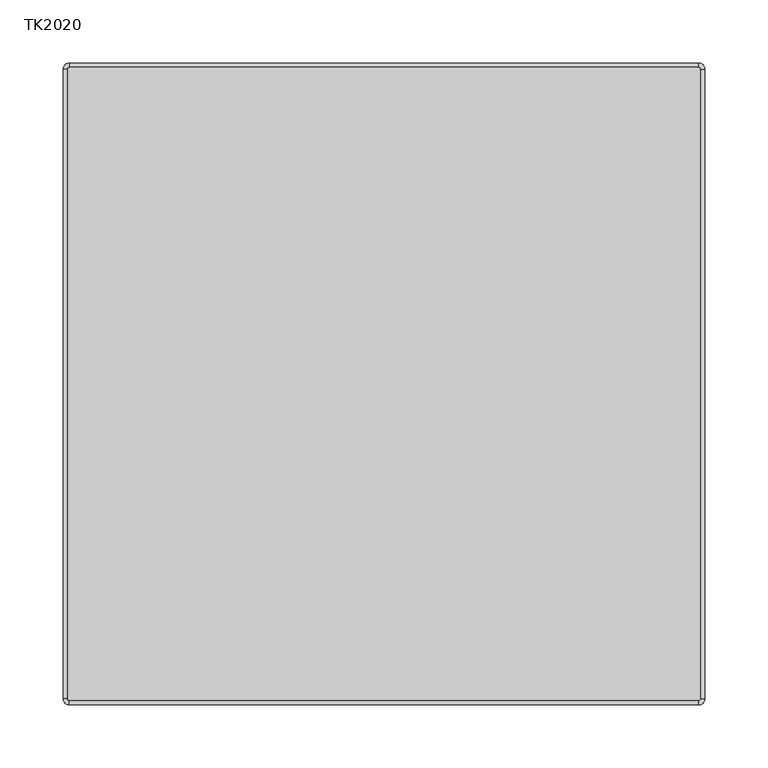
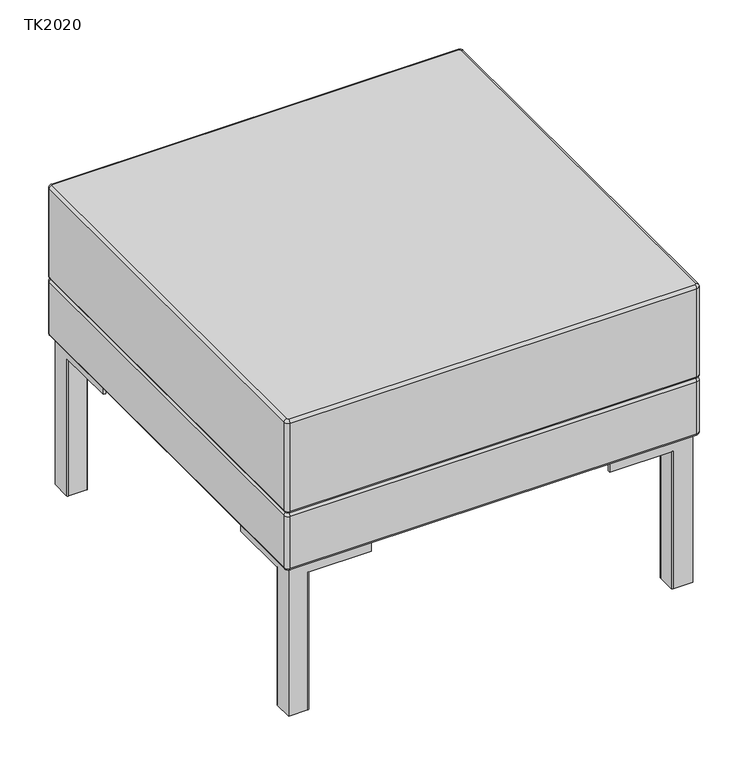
"""IFC4 building model written with IfcOpenShell, lengths in millimetres: furniture geometry, JSI-Teekan-Square_Ottoman : TK2020."""

from ifc_helpers import new_model, si_unit, point, frame, origin, place, context, project, spatial, circle_curve, ellipse_curve, trimmed, source, transform, mapped, element, save
from ifc_brep_helpers import plane_surface, cylinder_surface, revolved_surface, advanced_brep


def tk2020_f4fe18ef(model_context):
    return source(origin(), model_context, "Body", "AdvancedBrep", [
        advanced_brep(
        [(204.7875, -146.05, 192.6567329), (146.05, -204.7875, 192.6567329), (146.05, -246.0963055, 192.6567329), (246.0963055, -246.0963055, 192.6567329), (246.0963055, -146.05, 192.6567329), (146.05, -204.7875, 189.4817329), (204.7875, -146.05, 189.4817329), (244.475, -146.05, 189.4817329), (244.475, -222.25, 189.4817329), (223.8445539, -222.25, 189.4817329), (222.25, -223.8445539, 189.4817329), (222.25, -244.475, 189.4817329), (146.05, -244.475, 189.4817329), (247.65, -146.05, 191.1030384), (247.65, -146.05, 178.3692329), (244.475, -146.05, 178.3692329), (146.05, -244.475, 178.3692329), (146.05, -247.65, 178.3692329), (146.05, -247.65, 191.1030384), (246.0715276, -222.25, 0.0), (247.65, -223.8284724, 0.0), (247.65, -247.65, 0.0), (223.8303762, -247.65, 0.0), (222.25, -246.0696238, 0.0), (222.25, -223.8445539, 0.0), (223.8445539, -222.25, 0.0), (244.475, -222.25, 178.3692329), (246.0715276, -222.25, 178.3692329), (222.25, -246.0696238, 178.3692329), (222.25, -244.475, 178.3692329), (223.8303762, -247.65, 178.3692329), (247.65, -247.65, 191.1030384), (247.65, -223.8284724, 178.3692329)],
        [
            (0, 1),
            (1, 2),
            (2, 3),
            (3, 4),
            (4, 0),
            (5, 6),
            (6, 7),
            (7, 8),
            (8, 9),
            (9, 10, circle_curve(frame((223.8445539, -223.8445539, 189.4817329), z_axis=(0.0, 0.0, 1.0), x_axis=(-1.0, 0.0, 0.0)), 1.5945539)),
            (10, 11),
            (11, 12),
            (12, 5),
            (4, 13, circle_curve(frame((246.0963055, -146.05, 191.1030384), z_axis=(0.0, 1.0, 0.0), x_axis=(-1.0, 0.0, 0.0)), 1.5536945)),
            (13, 14),
            (14, 15),
            (15, 7),
            (6, 0),
            (5, 1),
            (12, 16),
            (16, 17),
            (17, 18),
            (18, 2, circle_curve(frame((146.05, -246.0963055, 191.1030384), z_axis=(-1.0, 0.0, 0.0), x_axis=(0.0, 1.0, 0.0)), 1.5536945)),
            (19, 20, circle_curve(frame((246.0715276, -223.8284724, 0.0), z_axis=(0.0, 0.0, -1.0), x_axis=(-1.0, 0.0, 0.0)), 1.5784724)),
            (20, 21),
            (21, 22),
            (22, 23, circle_curve(frame((223.8303762, -246.0696238, 0.0), z_axis=(0.0, 0.0, -1.0), x_axis=(-1.0, 0.0, 0.0)), 1.5803762)),
            (23, 24),
            (24, 25, circle_curve(frame((223.8445539, -223.8445539, 0.0), z_axis=(0.0, 0.0, -1.0), x_axis=(-1.0, 0.0, 0.0)), 1.5945539)),
            (25, 19),
            (25, 9),
            (8, 26),
            (26, 27),
            (27, 19),
            (24, 10),
            (23, 28),
            (28, 29),
            (29, 11),
            (22, 30),
            (30, 28, circle_curve(frame((223.8303762, -246.0696238, 178.3692329), z_axis=(0.0, 0.0, -1.0), x_axis=(-1.0, 0.0, 0.0)), 1.5803762)),
            (21, 31),
            (31, 18),
            (17, 30),
            (20, 32),
            (32, 14),
            (13, 31),
            (27, 32, circle_curve(frame((246.0715276, -223.8284724, 178.3692329), z_axis=(0.0, 0.0, -1.0), x_axis=(-1.0, 0.0, 0.0)), 1.5784724)),
            (29, 16),
            (26, 15),
            (31, 3, ellipse_curve(frame((246.0963055, -246.0963055, 191.1030384), z_axis=(-0.7071067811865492, -0.7071067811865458, 0.0), x_axis=(-0.7071067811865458, 0.7071067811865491, 0.0)), 2.1972559, 1.5536945)),
        ],
        [
            plane_surface(frame((231.8204481, -231.8204481, 192.6567329), z_axis=(0.0, 0.0, 1.0), x_axis=(1.0, 0.0, 0.0))),
            plane_surface(frame((231.8204481, -231.8204481, 189.4817329), z_axis=(0.0, 0.0, -1.0), x_axis=(-1.0, 0.0, 0.0))),
            plane_surface(frame((231.8204481, -146.05, 192.6567329), z_axis=(0.0, 1.0, 0.0), x_axis=(0.0, 0.0, -1.0))),
            plane_surface(frame((204.7875, -146.05, 192.6567329), z_axis=(-0.7071067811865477, 0.7071067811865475, 0.0), x_axis=(0.0, 0.0, -1.0))),
            plane_surface(frame((146.05, -204.7875, 192.6567329), z_axis=(-1.0, 0.0, 0.0), x_axis=(0.0, 0.0, -1.0))),
            plane_surface(frame((223.8375, -222.25, 0.0), z_axis=(0.0, 0.0, -1.0), x_axis=(1.0, 0.0, 0.0))),
            plane_surface(frame((246.0715276, -222.25, 189.4817329), z_axis=(0.0, 1.0, 0.0), x_axis=(0.0, 0.0, -1.0))),
            cylinder_surface(frame((223.8445539, -223.8445539, 0.0), z_axis=(0.0, 0.0, 1.0), x_axis=(-1.0, 0.0, 0.0)), 1.5945539),
            plane_surface(frame((222.25, -223.8445539, 189.4817329), z_axis=(-1.0, 0.0, 0.0), x_axis=(0.0, 0.0, -1.0))),
            cylinder_surface(frame((223.8303762, -246.0696238, 0.0), z_axis=(0.0, 0.0, 1.0), x_axis=(-1.0, 0.0, 0.0)), 1.5803762),
            plane_surface(frame((223.8303762, -247.65, 189.4817329), z_axis=(0.0, -1.0, 0.0), x_axis=(0.0, 0.0, -1.0))),
            plane_surface(frame((247.65, -247.65, 189.4817329), z_axis=(1.0, 0.0, 0.0), x_axis=(0.0, 0.0, -1.0))),
            cylinder_surface(frame((246.0715276, -223.8284724, 0.0), z_axis=(0.0, 0.0, 1.0), x_axis=(-1.0, 0.0, 0.0)), 1.5784724),
            plane_surface(frame((146.05, -244.475, 189.4817329), z_axis=(0.0, 1.0, 0.0), x_axis=(1.0, 0.0, 0.0))),
            plane_surface(frame((146.05, -244.475, 178.3692329), z_axis=(0.0, 0.0, -1.0), x_axis=(1.0, 0.0, 0.0))),
            cylinder_surface(frame((146.05, -246.0963055, 191.1030384), z_axis=(-1.0, 0.0, 0.0), x_axis=(0.0, 1.0, 0.0)), 1.5536945),
            plane_surface(frame((244.475, -244.475, 189.4817329), z_axis=(-1.0, 0.0, 0.0), x_axis=(0.0, 1.0, 0.0))),
            cylinder_surface(frame((246.0963055, -247.65, 191.1030384), z_axis=(0.0, -1.0, 0.0), x_axis=(-1.0, 0.0, 0.0)), 1.5536945),
        ],
        [
            (0, [[1, 2, 3, 4, 5]]),
            (1, [[6, 7, 8, 9, 10, 11, 12, 13]]),
            (2, [[-5, 14, 15, 16, 17, -7, 18]]),
            (3, [[-1, -18, -6, 19]]),
            (4, [[-2, -19, -13, 20, 21, 22, 23]]),
            (5, [[24, 25, 26, 27, 28, 29, 30]]),
            (6, [[-30, 31, -9, 32, 33, 34]]),
            (7, [[-29, 35, -10, -31]]),
            (8, [[-28, 36, 37, 38, -11, -35]]),
            (9, [[-27, 39, 40, -36]]),
            (10, [[-26, 41, 42, -22, 43, -39]]),
            (11, [[-41, -25, 44, 45, -15, 46]]),
            (12, [[-24, -34, 47, -44]]),
            (13, [[-20, -12, -38, 48]]),
            (14, [[-16, -45, -47, -33, 49]]),
            (14, [[-21, -48, -37, -40, -43]]),
            (15, [[-23, -42, 50, -3]]),
            (16, [[-17, -49, -32, -8]]),
            (17, [[-50, -46, -14, -4]]),
        ],
    ),
        advanced_brep(
        [(204.7875, 146.05, 192.6567329), (246.0963055, 146.05, 192.6567329), (246.0963055, 246.0963055, 192.6567329), (146.05, 246.0963055, 192.6567329), (146.05, 204.7875, 192.6567329), (146.05, 204.7875, 189.4817329), (146.05, 244.475, 189.4817329), (222.25, 244.475, 189.4817329), (222.25, 223.8445539, 189.4817329), (223.8445539, 222.25, 189.4817329), (244.475, 222.25, 189.4817329), (244.475, 146.05, 189.4817329), (204.7875, 146.05, 189.4817329), (244.475, 146.05, 178.3692329), (247.65, 146.05, 178.3692329), (247.65, 146.05, 191.1030384), (146.05, 247.65, 191.1030384), (146.05, 247.65, 178.3692329), (146.05, 244.475, 178.3692329), (246.0715276, 222.25, 0.0), (223.8445539, 222.25, 0.0), (222.25, 223.8445539, 0.0), (222.25, 246.0696238, 0.0), (223.8303762, 247.65, 0.0), (247.65, 247.65, 0.0), (247.65, 223.8284724, 0.0), (246.0715276, 222.25, 178.3692329), (244.475, 222.25, 178.3692329), (222.25, 244.475, 178.3692329), (222.25, 246.0696238, 178.3692329), (223.8303762, 247.65, 178.3692329), (247.65, 247.65, 191.1030384), (247.65, 223.8284724, 178.3692329)],
        [
            (0, 1),
            (1, 2),
            (2, 3),
            (3, 4),
            (4, 0),
            (5, 6),
            (6, 7),
            (7, 8),
            (8, 9, circle_curve(frame((223.8445539, 223.8445539, 189.4817329), z_axis=(0.0, 0.0, 1.0), x_axis=(-1.0, 0.0, 0.0)), 1.5945539)),
            (9, 10),
            (10, 11),
            (11, 12),
            (12, 5),
            (0, 12),
            (11, 13),
            (13, 14),
            (14, 15),
            (15, 1, circle_curve(frame((246.0963055, 146.05, 191.1030384), z_axis=(0.0, -1.0, 0.0), x_axis=(-1.0, 0.0, 0.0)), 1.5536945)),
            (4, 5),
            (3, 16, circle_curve(frame((146.05, 246.0963055, 191.1030384), z_axis=(-1.0, 0.0, 0.0), x_axis=(0.0, -1.0, 0.0)), 1.5536945)),
            (16, 17),
            (17, 18),
            (18, 6),
            (19, 20),
            (20, 21, circle_curve(frame((223.8445539, 223.8445539, 0.0), z_axis=(0.0, 0.0, -1.0), x_axis=(-1.0, 0.0, 0.0)), 1.5945539)),
            (21, 22),
            (22, 23, circle_curve(frame((223.8303762, 246.0696238, 0.0), z_axis=(0.0, 0.0, -1.0), x_axis=(-1.0, 0.0, 0.0)), 1.5803762)),
            (23, 24),
            (24, 25),
            (25, 19, circle_curve(frame((246.0715276, 223.8284724, 0.0), z_axis=(0.0, 0.0, -1.0), x_axis=(-1.0, 0.0, 0.0)), 1.5784724)),
            (19, 26),
            (26, 27),
            (27, 10),
            (9, 20),
            (8, 21),
            (7, 28),
            (28, 29),
            (29, 22),
            (29, 30, circle_curve(frame((223.8303762, 246.0696238, 178.3692329), z_axis=(0.0, 0.0, -1.0), x_axis=(-1.0, 0.0, 0.0)), 1.5803762)),
            (30, 23),
            (30, 17),
            (16, 31),
            (31, 24),
            (31, 15),
            (14, 32),
            (32, 25),
            (32, 26, circle_curve(frame((246.0715276, 223.8284724, 178.3692329), z_axis=(0.0, 0.0, -1.0), x_axis=(-1.0, 0.0, 0.0)), 1.5784724)),
            (18, 28),
            (13, 27),
            (2, 31, ellipse_curve(frame((246.0963055, 246.0963055, 191.1030384), z_axis=(-0.7071067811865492, 0.7071067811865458, 0.0), x_axis=(-0.7071067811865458, -0.7071067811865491, 0.0)), 2.1972559, 1.5536945)),
        ],
        [
            plane_surface(frame((231.8204481, 231.8204481, 192.6567329), z_axis=(0.0, 0.0, 1.0), x_axis=(1.0, 0.0, 0.0))),
            plane_surface(frame((231.8204481, 231.8204481, 189.4817329), z_axis=(0.0, 0.0, -1.0), x_axis=(-1.0, 0.0, 0.0))),
            plane_surface(frame((231.8204481, 146.05, 192.6567329), z_axis=(0.0, -1.0, 0.0), x_axis=(0.0, 0.0, -1.0))),
            plane_surface(frame((204.7875, 146.05, 192.6567329), z_axis=(-0.7071067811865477, -0.7071067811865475, 0.0), x_axis=(0.0, 0.0, -1.0))),
            plane_surface(frame((146.05, 204.7875, 192.6567329), z_axis=(-1.0, 0.0, 0.0), x_axis=(0.0, 0.0, -1.0))),
            plane_surface(frame((223.8375, 222.25, 0.0), z_axis=(0.0, 0.0, -1.0), x_axis=(1.0, 0.0, 0.0))),
            plane_surface(frame((246.0715276, 222.25, 189.4817329), z_axis=(0.0, -1.0, 0.0), x_axis=(0.0, 0.0, -1.0))),
            cylinder_surface(frame((223.8445539, 223.8445539, 0.0), z_axis=(0.0, 0.0, 1.0), x_axis=(-1.0, 0.0, 0.0)), 1.5945539),
            plane_surface(frame((222.25, 223.8445539, 189.4817329), z_axis=(-1.0, 0.0, 0.0), x_axis=(0.0, 0.0, -1.0))),
            cylinder_surface(frame((223.8303762, 246.0696238, 0.0), z_axis=(0.0, 0.0, 1.0), x_axis=(-1.0, 0.0, 0.0)), 1.5803762),
            plane_surface(frame((223.8303762, 247.65, 189.4817329), z_axis=(0.0, 1.0, 0.0), x_axis=(0.0, 0.0, -1.0))),
            plane_surface(frame((247.65, 247.65, 189.4817329), z_axis=(1.0, 0.0, 0.0), x_axis=(0.0, 0.0, -1.0))),
            cylinder_surface(frame((246.0715276, 223.8284724, 0.0), z_axis=(0.0, 0.0, 1.0), x_axis=(-1.0, 0.0, 0.0)), 1.5784724),
            plane_surface(frame((146.05, 244.475, 189.4817329), z_axis=(0.0, -1.0, 0.0), x_axis=(1.0, 0.0, 0.0))),
            plane_surface(frame((146.05, 244.475, 178.3692329), z_axis=(0.0, 0.0, -1.0), x_axis=(1.0, 0.0, 0.0))),
            cylinder_surface(frame((146.05, 246.0963055, 191.1030384), z_axis=(-1.0, 0.0, 0.0), x_axis=(0.0, -1.0, 0.0)), 1.5536945),
            plane_surface(frame((244.475, 244.475, 189.4817329), z_axis=(-1.0, 0.0, 0.0), x_axis=(0.0, -1.0, 0.0))),
            cylinder_surface(frame((246.0963055, 247.65, 191.1030384), z_axis=(0.0, 1.0, 0.0), x_axis=(-1.0, 0.0, 0.0)), 1.5536945),
        ],
        [
            (0, [[1, 2, 3, 4, 5]]),
            (1, [[6, 7, 8, 9, 10, 11, 12, 13]]),
            (2, [[14, -12, 15, 16, 17, 18, -1]]),
            (3, [[19, -13, -14, -5]]),
            (4, [[20, 21, 22, 23, -6, -19, -4]]),
            (5, [[24, 25, 26, 27, 28, 29, 30]]),
            (6, [[31, 32, 33, -10, 34, -24]]),
            (7, [[-34, -9, 35, -25]]),
            (8, [[-35, -8, 36, 37, 38, -26]]),
            (9, [[-38, 39, 40, -27]]),
            (10, [[-40, 41, -21, 42, 43, -28]]),
            (11, [[44, -17, 45, 46, -29, -43]]),
            (12, [[-46, 47, -31, -30]]),
            (13, [[48, -36, -7, -23]]),
            (14, [[-41, -39, -37, -48, -22]]),
            (14, [[49, -32, -47, -45, -16]]),
            (15, [[-3, 50, -42, -20]]),
            (16, [[-11, -33, -49, -15]]),
            (17, [[-2, -18, -44, -50]]),
        ],
    ),
        advanced_brep(
        [(254.0, 249.2375, 384.2438984), (249.2375, 254.0, 384.2438984), (249.2375, 250.825, 387.4188984), (250.825, 249.2375, 387.4188984), (254.0, 249.2375, 269.9438984), (249.2375, 254.0, 269.9438984), (250.825, 249.2375, 266.7688984), (249.2375, 250.825, 266.7688984), (250.825, -249.2375, 387.4188984), (254.0, -249.2375, 384.2438984), (254.0, -249.2375, 269.9438984), (250.825, -249.2375, 266.7688984), (249.2375, -250.825, 387.4188984), (249.2375, -254.0, 384.2438984), (249.2375, -254.0, 269.9438984), (249.2375, -250.825, 266.7688984), (-249.2375, -250.825, 387.4188984), (-249.2375, -254.0, 384.2438984), (-249.2375, -254.0, 269.9438984), (-249.2375, -250.825, 266.7688984), (-250.825, -249.2375, 387.4188984), (-254.0, -249.2375, 384.2438984), (-254.0, -249.2375, 269.9438984), (-250.825, -249.2375, 266.7688984), (-250.825, 249.2375, 387.4188984), (-254.0, 249.2375, 384.2438984), (-254.0, 249.2375, 269.9438984), (-250.825, 249.2375, 266.7688984), (-249.2375, 250.825, 387.4188984), (-249.2375, 254.0, 384.2438984), (-249.2375, 254.0, 269.9438984), (-249.2375, 250.825, 266.7688984)],
        [
            (0, 1, circle_curve(frame((249.2375, 249.2375, 384.2438984), z_axis=(0.0, 0.0, 1.0), x_axis=(0.0, 1.0, 0.0)), 4.7625)),
            (1, 2, circle_curve(frame((249.2375, 250.825, 384.2438984), z_axis=(1.0, 0.0, 0.0), x_axis=(0.0, 1.0, 0.0)), 3.175)),
            (2, 3, circle_curve(frame((249.2375, 249.2375, 387.4188984), z_axis=(0.0, 0.0, -1.0), x_axis=(0.0, 1.0, 0.0)), 1.5875)),
            (3, 0, circle_curve(frame((250.825, 249.2375, 384.2438984), z_axis=(0.0, 1.0, 0.0), x_axis=(1.0, 0.0, 0.0)), 3.175)),
            (0, 4),
            (4, 5, circle_curve(frame((249.2375, 249.2375, 269.9438984), z_axis=(0.0, 0.0, 1.0), x_axis=(0.0, 1.0, 0.0)), 4.7625)),
            (5, 1),
            (4, 6, circle_curve(frame((250.825, 249.2375, 269.9438984), z_axis=(0.0, 1.0, 0.0), x_axis=(1.0, 0.0, 0.0)), 3.175)),
            (6, 7, circle_curve(frame((249.2375, 249.2375, 266.7688984), z_axis=(0.0, 0.0, 1.0), x_axis=(0.0, 1.0, 0.0)), 1.5875)),
            (7, 5, circle_curve(frame((249.2375, 250.825, 269.9438984), z_axis=(1.0, 0.0, 0.0), x_axis=(0.0, 1.0, 0.0)), 3.175)),
            (3, 8),
            (8, 9, circle_curve(frame((250.825, -249.2375, 384.2438984), z_axis=(0.0, 1.0, 0.0), x_axis=(1.0, 0.0, 0.0)), 3.175)),
            (9, 0),
            (9, 10),
            (10, 4),
            (10, 11, circle_curve(frame((250.825, -249.2375, 269.9438984), z_axis=(0.0, 1.0, 0.0), x_axis=(1.0, 0.0, 0.0)), 3.175)),
            (11, 6),
            (8, 12, circle_curve(frame((249.2375, -249.2375, 387.4188984), z_axis=(0.0, 0.0, -1.0), x_axis=(1.0, 0.0, 0.0)), 1.5875)),
            (12, 13, circle_curve(frame((249.2375, -250.825, 384.2438984), z_axis=(1.0, 0.0, 0.0), x_axis=(0.0, -1.0, 0.0)), 3.175)),
            (13, 9, circle_curve(frame((249.2375, -249.2375, 384.2438984), z_axis=(0.0, 0.0, 1.0), x_axis=(1.0, 0.0, 0.0)), 4.7625)),
            (13, 14),
            (14, 10, circle_curve(frame((249.2375, -249.2375, 269.9438984), z_axis=(0.0, 0.0, 1.0), x_axis=(1.0, 0.0, 0.0)), 4.7625)),
            (14, 15, circle_curve(frame((249.2375, -250.825, 269.9438984), z_axis=(1.0, 0.0, 0.0), x_axis=(0.0, -1.0, 0.0)), 3.175)),
            (15, 11, circle_curve(frame((249.2375, -249.2375, 266.7688984), z_axis=(0.0, 0.0, 1.0), x_axis=(1.0, 0.0, 0.0)), 1.5875)),
            (12, 16),
            (16, 17, circle_curve(frame((-249.2375, -250.825, 384.2438984), z_axis=(1.0, 0.0, 0.0), x_axis=(0.0, -1.0, 0.0)), 3.175)),
            (17, 13),
            (17, 18),
            (18, 14),
            (18, 19, circle_curve(frame((-249.2375, -250.825, 269.9438984), z_axis=(1.0, 0.0, 0.0), x_axis=(0.0, -1.0, 0.0)), 3.175)),
            (19, 15),
            (16, 20, circle_curve(frame((-249.2375, -249.2375, 387.4188984), z_axis=(0.0, 0.0, -1.0), x_axis=(0.0, -1.0, 0.0)), 1.5875)),
            (20, 21, circle_curve(frame((-250.825, -249.2375, 384.2438984), z_axis=(0.0, -1.0, 0.0), x_axis=(-1.0, 0.0, 0.0)), 3.175)),
            (21, 17, circle_curve(frame((-249.2375, -249.2375, 384.2438984), z_axis=(0.0, 0.0, 1.0), x_axis=(0.0, -1.0, 0.0)), 4.7625)),
            (21, 22),
            (22, 18, circle_curve(frame((-249.2375, -249.2375, 269.9438984), z_axis=(0.0, 0.0, 1.0), x_axis=(0.0, -1.0, 0.0)), 4.7625)),
            (22, 23, circle_curve(frame((-250.825, -249.2375, 269.9438984), z_axis=(0.0, -1.0, 0.0), x_axis=(-1.0, 0.0, 0.0)), 3.175)),
            (23, 19, circle_curve(frame((-249.2375, -249.2375, 266.7688984), z_axis=(0.0, 0.0, 1.0), x_axis=(0.0, -1.0, 0.0)), 1.5875)),
            (20, 24),
            (24, 25, circle_curve(frame((-250.825, 249.2375, 384.2438984), z_axis=(0.0, -1.0, 0.0), x_axis=(-1.0, 0.0, 0.0)), 3.175)),
            (25, 21),
            (25, 26),
            (26, 22),
            (26, 27, circle_curve(frame((-250.825, 249.2375, 269.9438984), z_axis=(0.0, -1.0, 0.0), x_axis=(-1.0, 0.0, 0.0)), 3.175)),
            (27, 23),
            (24, 28, circle_curve(frame((-249.2375, 249.2375, 387.4188984), z_axis=(0.0, 0.0, -1.0), x_axis=(-1.0, 0.0, 0.0)), 1.5875)),
            (28, 29, circle_curve(frame((-249.2375, 250.825, 384.2438984), z_axis=(-1.0, 0.0, 0.0), x_axis=(0.0, 1.0, 0.0)), 3.175)),
            (29, 25, circle_curve(frame((-249.2375, 249.2375, 384.2438984), z_axis=(0.0, 0.0, 1.0), x_axis=(-1.0, 0.0, 0.0)), 4.7625)),
            (29, 30),
            (30, 26, circle_curve(frame((-249.2375, 249.2375, 269.9438984), z_axis=(0.0, 0.0, 1.0), x_axis=(-1.0, 0.0, 0.0)), 4.7625)),
            (30, 31, circle_curve(frame((-249.2375, 250.825, 269.9438984), z_axis=(-1.0, 0.0, 0.0), x_axis=(0.0, 1.0, 0.0)), 3.175)),
            (31, 27, circle_curve(frame((-249.2375, 249.2375, 266.7688984), z_axis=(0.0, 0.0, 1.0), x_axis=(-1.0, 0.0, 0.0)), 1.5875)),
            (31, 7),
            (2, 28),
            (1, 29),
            (5, 30),
        ],
        [
            revolved_surface(trimmed(ellipse_curve(frame((249.2375, 250.825, 384.2438984), z_axis=(-1.0, 0.0, 0.0), x_axis=(0.0, 1.0, 0.0)), 3.175, 3.175), [point((249.2375, 250.825, 387.4188984))], [point((249.2375, 254.0, 384.2438984))], True, "CARTESIAN"), (249.2375, 249.2375, 0.0), (0.0, 0.0, -1.0)),
            cylinder_surface(frame((249.2375, 249.2375, 0.0), z_axis=(0.0, 0.0, -1.0), x_axis=(0.0, 1.0, 0.0)), 4.7625),
            revolved_surface(trimmed(ellipse_curve(frame((249.2375, 250.825, 269.9438984), z_axis=(-1.0, 0.0, 0.0), x_axis=(0.0, 1.0, 0.0)), 3.175, 3.175), [point((249.2375, 254.0, 269.9438984))], [point((249.2375, 250.825, 266.7688984))], True, "CARTESIAN"), (249.2375, 249.2375, 0.0), (0.0, 0.0, -1.0)),
            cylinder_surface(frame((250.825, 249.2375, 384.2438984), z_axis=(0.0, 1.0, 0.0), x_axis=(1.0, 0.0, 0.0)), 3.175),
            plane_surface(frame((254.0, 249.2375, 384.2438984), z_axis=(1.0, 0.0, 0.0), x_axis=(0.0, -1.0, 0.0))),
            cylinder_surface(frame((250.825, 249.2375, 269.9438984), z_axis=(0.0, 1.0, 0.0), x_axis=(1.0, 0.0, 0.0)), 3.175),
            revolved_surface(trimmed(ellipse_curve(frame((250.825, -249.2375, 384.2438984), z_axis=(0.0, 1.0, 0.0), x_axis=(1.0, 0.0, 0.0)), 3.175, 3.175), [point((250.825, -249.2375, 387.4188984))], [point((254.0, -249.2375, 384.2438984))], True, "CARTESIAN"), (249.2375, -249.2375, 0.0), (0.0, 0.0, -1.0)),
            cylinder_surface(frame((249.2375, -249.2375, 0.0), z_axis=(0.0, 0.0, -1.0), x_axis=(1.0, 0.0, 0.0)), 4.7625),
            revolved_surface(trimmed(ellipse_curve(frame((250.825, -249.2375, 269.9438984), z_axis=(0.0, 1.0, 0.0), x_axis=(1.0, 0.0, 0.0)), 3.175, 3.175), [point((254.0, -249.2375, 269.9438984))], [point((250.825, -249.2375, 266.7688984))], True, "CARTESIAN"), (249.2375, -249.2375, 0.0), (0.0, 0.0, -1.0)),
            cylinder_surface(frame((249.2375, -250.825, 384.2438984), z_axis=(1.0, 0.0, 0.0), x_axis=(0.0, -1.0, 0.0)), 3.175),
            plane_surface(frame((249.2375, -254.0, 384.2438984), z_axis=(0.0, -1.0, 0.0), x_axis=(-1.0, 0.0, 0.0))),
            cylinder_surface(frame((249.2375, -250.825, 269.9438984), z_axis=(1.0, 0.0, 0.0), x_axis=(0.0, -1.0, 0.0)), 3.175),
            revolved_surface(trimmed(ellipse_curve(frame((-249.2375, -250.825, 384.2438984), z_axis=(1.0, 0.0, 0.0), x_axis=(0.0, -1.0, 0.0)), 3.175, 3.175), [point((-249.2375, -250.825, 387.4188984))], [point((-249.2375, -254.0, 384.2438984))], True, "CARTESIAN"), (-249.2375, -249.2375, 0.0), (0.0, 0.0, -1.0)),
            cylinder_surface(frame((-249.2375, -249.2375, 0.0), z_axis=(0.0, 0.0, -1.0), x_axis=(0.0, -1.0, 0.0)), 4.7625),
            revolved_surface(trimmed(ellipse_curve(frame((-249.2375, -250.825, 269.9438984), z_axis=(1.0, 0.0, 0.0), x_axis=(0.0, -1.0, 0.0)), 3.175, 3.175), [point((-249.2375, -254.0, 269.9438984))], [point((-249.2375, -250.825, 266.7688984))], True, "CARTESIAN"), (-249.2375, -249.2375, 0.0), (0.0, 0.0, -1.0)),
            cylinder_surface(frame((-250.825, -249.2375, 384.2438984), z_axis=(0.0, -1.0, 0.0), x_axis=(-1.0, 0.0, 0.0)), 3.175),
            plane_surface(frame((-254.0, -249.2375, 384.2438984), z_axis=(-1.0, 0.0, 0.0), x_axis=(0.0, 1.0, 0.0))),
            cylinder_surface(frame((-250.825, -249.2375, 269.9438984), z_axis=(0.0, -1.0, 0.0), x_axis=(-1.0, 0.0, 0.0)), 3.175),
            revolved_surface(trimmed(ellipse_curve(frame((-250.825, 249.2375, 384.2438984), z_axis=(0.0, -1.0, 0.0), x_axis=(-1.0, 0.0, 0.0)), 3.175, 3.175), [point((-250.825, 249.2375, 387.4188984))], [point((-254.0, 249.2375, 384.2438984))], True, "CARTESIAN"), (-249.2375, 249.2375, 0.0), (0.0, 0.0, -1.0)),
            cylinder_surface(frame((-249.2375, 249.2375, 0.0), z_axis=(0.0, 0.0, -1.0), x_axis=(-1.0, 0.0, 0.0)), 4.7625),
            revolved_surface(trimmed(ellipse_curve(frame((-250.825, 249.2375, 269.9438984), z_axis=(0.0, -1.0, 0.0), x_axis=(-1.0, 0.0, 0.0)), 3.175, 3.175), [point((-254.0, 249.2375, 269.9438984))], [point((-250.825, 249.2375, 266.7688984))], True, "CARTESIAN"), (-249.2375, 249.2375, 0.0), (0.0, 0.0, -1.0)),
            plane_surface(frame((-249.2375, 250.825, 266.7688984), z_axis=(0.0, 0.0, -1.0), x_axis=(1.0, 0.0, 0.0))),
            plane_surface(frame((-249.2375, 250.03125, 387.4188984), z_axis=(0.0, 0.0, 1.0), x_axis=(1.0, 0.0, 0.0))),
            cylinder_surface(frame((-249.2375, 250.825, 384.2438984), z_axis=(-1.0, 0.0, 0.0), x_axis=(0.0, 1.0, 0.0)), 3.175),
            plane_surface(frame((-249.2375, 254.0, 384.2438984), z_axis=(0.0, 1.0, 0.0), x_axis=(1.0, 0.0, 0.0))),
            cylinder_surface(frame((-249.2375, 250.825, 269.9438984), z_axis=(-1.0, 0.0, 0.0), x_axis=(0.0, 1.0, 0.0)), 3.175),
        ],
        [
            (0, [[1, 2, 3, 4]]),
            (1, [[-1, 5, 6, 7]]),
            (2, [[-6, 8, 9, 10]]),
            (3, [[-4, 11, 12, 13]]),
            (4, [[-5, -13, 14, 15]]),
            (5, [[-8, -15, 16, 17]]),
            (6, [[-12, 18, 19, 20]]),
            (7, [[-14, -20, 21, 22]]),
            (8, [[-16, -22, 23, 24]]),
            (9, [[-19, 25, 26, 27]]),
            (10, [[-21, -27, 28, 29]]),
            (11, [[-23, -29, 30, 31]]),
            (12, [[-26, 32, 33, 34]]),
            (13, [[-28, -34, 35, 36]]),
            (14, [[-30, -36, 37, 38]]),
            (15, [[-33, 39, 40, 41]]),
            (16, [[-35, -41, 42, 43]]),
            (17, [[-37, -43, 44, 45]]),
            (18, [[-40, 46, 47, 48]]),
            (19, [[-42, -48, 49, 50]]),
            (20, [[-44, -50, 51, 52]]),
            (21, [[-9, -17, -24, -31, -38, -45, -52, 53]]),
            (22, [[-3, 54, -46, -39, -32, -25, -18, -11]]),
            (23, [[-2, 55, -47, -54]]),
            (24, [[-7, 56, -49, -55]]),
            (25, [[-10, -53, -51, -56]]),
        ],
    ),
        advanced_brep(
        [(-204.7875, -146.05, 192.6567329), (-246.0963055, -146.05, 192.6567329), (-246.0963055, -246.0963055, 192.6567329), (-146.05, -246.0963055, 192.6567329), (-146.05, -204.7875, 192.6567329), (-146.05, -204.7875, 189.4817329), (-146.05, -244.475, 189.4817329), (-222.25, -244.475, 189.4817329), (-222.25, -223.8445539, 189.4817329), (-223.8445539, -222.25, 189.4817329), (-244.475, -222.25, 189.4817329), (-244.475, -146.05, 189.4817329), (-204.7875, -146.05, 189.4817329), (-244.475, -146.05, 178.3692329), (-247.65, -146.05, 178.3692329), (-247.65, -146.05, 191.1030384), (-146.05, -247.65, 191.1030384), (-146.05, -247.65, 178.3692329), (-146.05, -244.475, 178.3692329), (-246.0715276, -222.25, 0.0), (-223.8445539, -222.25, 0.0), (-222.25, -223.8445539, 0.0), (-222.25, -246.0696238, 0.0), (-223.8303762, -247.65, 0.0), (-247.65, -247.65, 0.0), (-247.65, -223.8284724, 0.0), (-246.0715276, -222.25, 178.3692329), (-244.475, -222.25, 178.3692329), (-222.25, -244.475, 178.3692329), (-222.25, -246.0696238, 178.3692329), (-223.8303762, -247.65, 178.3692329), (-247.65, -247.65, 191.1030384), (-247.65, -223.8284724, 178.3692329)],
        [
            (0, 1),
            (1, 2),
            (2, 3),
            (3, 4),
            (4, 0),
            (5, 6),
            (6, 7),
            (7, 8),
            (8, 9, circle_curve(frame((-223.8445539, -223.8445539, 189.4817329), z_axis=(0.0, 0.0, 1.0), x_axis=(1.0, 0.0, 0.0)), 1.5945539)),
            (9, 10),
            (10, 11),
            (11, 12),
            (12, 5),
            (0, 12),
            (11, 13),
            (13, 14),
            (14, 15),
            (15, 1, circle_curve(frame((-246.0963055, -146.05, 191.1030384), z_axis=(0.0, 1.0, 0.0), x_axis=(1.0, 0.0, 0.0)), 1.5536945)),
            (4, 5),
            (3, 16, circle_curve(frame((-146.05, -246.0963055, 191.1030384), z_axis=(1.0, 0.0, 0.0), x_axis=(0.0, 1.0, 0.0)), 1.5536945)),
            (16, 17),
            (17, 18),
            (18, 6),
            (19, 20),
            (20, 21, circle_curve(frame((-223.8445539, -223.8445539, 0.0), z_axis=(0.0, 0.0, -1.0), x_axis=(1.0, 0.0, 0.0)), 1.5945539)),
            (21, 22),
            (22, 23, circle_curve(frame((-223.8303762, -246.0696238, 0.0), z_axis=(0.0, 0.0, -1.0), x_axis=(1.0, 0.0, 0.0)), 1.5803762)),
            (23, 24),
            (24, 25),
            (25, 19, circle_curve(frame((-246.0715276, -223.8284724, 0.0), z_axis=(0.0, 0.0, -1.0), x_axis=(1.0, 0.0, 0.0)), 1.5784724)),
            (19, 26),
            (26, 27),
            (27, 10),
            (9, 20),
            (8, 21),
            (7, 28),
            (28, 29),
            (29, 22),
            (29, 30, circle_curve(frame((-223.8303762, -246.0696238, 178.3692329), z_axis=(0.0, 0.0, -1.0), x_axis=(1.0, 0.0, 0.0)), 1.5803762)),
            (30, 23),
            (30, 17),
            (16, 31),
            (31, 24),
            (31, 15),
            (14, 32),
            (32, 25),
            (32, 26, circle_curve(frame((-246.0715276, -223.8284724, 178.3692329), z_axis=(0.0, 0.0, -1.0), x_axis=(1.0, 0.0, 0.0)), 1.5784724)),
            (18, 28),
            (13, 27),
            (2, 31, ellipse_curve(frame((-246.0963055, -246.0963055, 191.1030384), z_axis=(0.7071067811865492, -0.7071067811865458, 0.0), x_axis=(0.7071067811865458, 0.7071067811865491, 0.0)), 2.1972559, 1.5536945)),
        ],
        [
            plane_surface(frame((-231.8204481, -231.8204481, 192.6567329), z_axis=(0.0, 0.0, 1.0), x_axis=(-1.0, 0.0, 0.0))),
            plane_surface(frame((-231.8204481, -231.8204481, 189.4817329), z_axis=(0.0, 0.0, -1.0), x_axis=(1.0, 0.0, 0.0))),
            plane_surface(frame((-231.8204481, -146.05, 192.6567329), z_axis=(0.0, 1.0, 0.0), x_axis=(0.0, 0.0, -1.0))),
            plane_surface(frame((-204.7875, -146.05, 192.6567329), z_axis=(0.7071067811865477, 0.7071067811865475, 0.0), x_axis=(0.0, 0.0, -1.0))),
            plane_surface(frame((-146.05, -204.7875, 192.6567329), z_axis=(1.0, 0.0, 0.0), x_axis=(0.0, 0.0, -1.0))),
            plane_surface(frame((-223.8375, -222.25, 0.0), z_axis=(0.0, 0.0, -1.0), x_axis=(-1.0, 0.0, 0.0))),
            plane_surface(frame((-246.0715276, -222.25, 189.4817329), z_axis=(0.0, 1.0, 0.0), x_axis=(0.0, 0.0, -1.0))),
            cylinder_surface(frame((-223.8445539, -223.8445539, 0.0), z_axis=(0.0, 0.0, 1.0), x_axis=(1.0, 0.0, 0.0)), 1.5945539),
            plane_surface(frame((-222.25, -223.8445539, 189.4817329), z_axis=(1.0, 0.0, 0.0), x_axis=(0.0, 0.0, -1.0))),
            cylinder_surface(frame((-223.8303762, -246.0696238, 0.0), z_axis=(0.0, 0.0, 1.0), x_axis=(1.0, 0.0, 0.0)), 1.5803762),
            plane_surface(frame((-223.8303762, -247.65, 189.4817329), z_axis=(0.0, -1.0, 0.0), x_axis=(0.0, 0.0, -1.0))),
            plane_surface(frame((-247.65, -247.65, 189.4817329), z_axis=(-1.0, 0.0, 0.0), x_axis=(0.0, 0.0, -1.0))),
            cylinder_surface(frame((-246.0715276, -223.8284724, 0.0), z_axis=(0.0, 0.0, 1.0), x_axis=(1.0, 0.0, 0.0)), 1.5784724),
            plane_surface(frame((-146.05, -244.475, 189.4817329), z_axis=(0.0, 1.0, 0.0), x_axis=(-1.0, 0.0, 0.0))),
            plane_surface(frame((-146.05, -244.475, 178.3692329), z_axis=(0.0, 0.0, -1.0), x_axis=(-1.0, 0.0, 0.0))),
            cylinder_surface(frame((-146.05, -246.0963055, 191.1030384), z_axis=(1.0, 0.0, 0.0), x_axis=(0.0, 1.0, 0.0)), 1.5536945),
            plane_surface(frame((-244.475, -244.475, 189.4817329), z_axis=(1.0, 0.0, 0.0), x_axis=(0.0, 1.0, 0.0))),
            cylinder_surface(frame((-246.0963055, -247.65, 191.1030384), z_axis=(0.0, -1.0, 0.0), x_axis=(1.0, 0.0, 0.0)), 1.5536945),
        ],
        [
            (0, [[1, 2, 3, 4, 5]]),
            (1, [[6, 7, 8, 9, 10, 11, 12, 13]]),
            (2, [[14, -12, 15, 16, 17, 18, -1]]),
            (3, [[19, -13, -14, -5]]),
            (4, [[20, 21, 22, 23, -6, -19, -4]]),
            (5, [[24, 25, 26, 27, 28, 29, 30]]),
            (6, [[31, 32, 33, -10, 34, -24]]),
            (7, [[-34, -9, 35, -25]]),
            (8, [[-35, -8, 36, 37, 38, -26]]),
            (9, [[-38, 39, 40, -27]]),
            (10, [[-40, 41, -21, 42, 43, -28]]),
            (11, [[44, -17, 45, 46, -29, -43]]),
            (12, [[-46, 47, -31, -30]]),
            (13, [[48, -36, -7, -23]]),
            (14, [[-41, -39, -37, -48, -22]]),
            (14, [[49, -32, -47, -45, -16]]),
            (15, [[-3, 50, -42, -20]]),
            (16, [[-11, -33, -49, -15]]),
            (17, [[-2, -18, -44, -50]]),
        ],
    ),
        advanced_brep(
        [(-204.7875, 146.05, 192.6567329), (-146.05, 204.7875, 192.6567329), (-146.05, 246.0963055, 192.6567329), (-246.0963055, 246.0963055, 192.6567329), (-246.0963055, 146.05, 192.6567329), (-146.05, 204.7875, 189.4817329), (-204.7875, 146.05, 189.4817329), (-244.475, 146.05, 189.4817329), (-244.475, 222.25, 189.4817329), (-223.8445539, 222.25, 189.4817329), (-222.25, 223.8445539, 189.4817329), (-222.25, 244.475, 189.4817329), (-146.05, 244.475, 189.4817329), (-247.65, 146.05, 191.1030384), (-247.65, 146.05, 178.3692329), (-244.475, 146.05, 178.3692329), (-146.05, 244.475, 178.3692329), (-146.05, 247.65, 178.3692329), (-146.05, 247.65, 191.1030384), (-246.0715276, 222.25, 0.0), (-247.65, 223.8284724, 0.0), (-247.65, 247.65, 0.0), (-223.8303762, 247.65, 0.0), (-222.25, 246.0696238, 0.0), (-222.25, 223.8445539, 0.0), (-223.8445539, 222.25, 0.0), (-244.475, 222.25, 178.3692329), (-246.0715276, 222.25, 178.3692329), (-222.25, 246.0696238, 178.3692329), (-222.25, 244.475, 178.3692329), (-223.8303762, 247.65, 178.3692329), (-247.65, 247.65, 191.1030384), (-247.65, 223.8284724, 178.3692329)],
        [
            (0, 1),
            (1, 2),
            (2, 3),
            (3, 4),
            (4, 0),
            (5, 6),
            (6, 7),
            (7, 8),
            (8, 9),
            (9, 10, circle_curve(frame((-223.8445539, 223.8445539, 189.4817329), z_axis=(0.0, 0.0, 1.0), x_axis=(1.0, 0.0, 0.0)), 1.5945539)),
            (10, 11),
            (11, 12),
            (12, 5),
            (4, 13, circle_curve(frame((-246.0963055, 146.05, 191.1030384), z_axis=(0.0, -1.0, 0.0), x_axis=(1.0, 0.0, 0.0)), 1.5536945)),
            (13, 14),
            (14, 15),
            (15, 7),
            (6, 0),
            (5, 1),
            (12, 16),
            (16, 17),
            (17, 18),
            (18, 2, circle_curve(frame((-146.05, 246.0963055, 191.1030384), z_axis=(1.0, 0.0, 0.0), x_axis=(0.0, -1.0, 0.0)), 1.5536945)),
            (19, 20, circle_curve(frame((-246.0715276, 223.8284724, 0.0), z_axis=(0.0, 0.0, -1.0), x_axis=(1.0, 0.0, 0.0)), 1.5784724)),
            (20, 21),
            (21, 22),
            (22, 23, circle_curve(frame((-223.8303762, 246.0696238, 0.0), z_axis=(0.0, 0.0, -1.0), x_axis=(1.0, 0.0, 0.0)), 1.5803762)),
            (23, 24),
            (24, 25, circle_curve(frame((-223.8445539, 223.8445539, 0.0), z_axis=(0.0, 0.0, -1.0), x_axis=(1.0, 0.0, 0.0)), 1.5945539)),
            (25, 19),
            (25, 9),
            (8, 26),
            (26, 27),
            (27, 19),
            (24, 10),
            (23, 28),
            (28, 29),
            (29, 11),
            (22, 30),
            (30, 28, circle_curve(frame((-223.8303762, 246.0696238, 178.3692329), z_axis=(0.0, 0.0, -1.0), x_axis=(1.0, 0.0, 0.0)), 1.5803762)),
            (21, 31),
            (31, 18),
            (17, 30),
            (20, 32),
            (32, 14),
            (13, 31),
            (27, 32, circle_curve(frame((-246.0715276, 223.8284724, 178.3692329), z_axis=(0.0, 0.0, -1.0), x_axis=(1.0, 0.0, 0.0)), 1.5784724)),
            (29, 16),
            (26, 15),
            (31, 3, ellipse_curve(frame((-246.0963055, 246.0963055, 191.1030384), z_axis=(0.7071067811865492, 0.7071067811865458, 0.0), x_axis=(0.7071067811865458, -0.7071067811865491, 0.0)), 2.1972559, 1.5536945)),
        ],
        [
            plane_surface(frame((-231.8204481, 231.8204481, 192.6567329), z_axis=(0.0, 0.0, 1.0), x_axis=(-1.0, 0.0, 0.0))),
            plane_surface(frame((-231.8204481, 231.8204481, 189.4817329), z_axis=(0.0, 0.0, -1.0), x_axis=(1.0, 0.0, 0.0))),
            plane_surface(frame((-231.8204481, 146.05, 192.6567329), z_axis=(0.0, -1.0, 0.0), x_axis=(0.0, 0.0, -1.0))),
            plane_surface(frame((-204.7875, 146.05, 192.6567329), z_axis=(0.7071067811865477, -0.7071067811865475, 0.0), x_axis=(0.0, 0.0, -1.0))),
            plane_surface(frame((-146.05, 204.7875, 192.6567329), z_axis=(1.0, 0.0, 0.0), x_axis=(0.0, 0.0, -1.0))),
            plane_surface(frame((-223.8375, 222.25, 0.0), z_axis=(0.0, 0.0, -1.0), x_axis=(-1.0, 0.0, 0.0))),
            plane_surface(frame((-246.0715276, 222.25, 189.4817329), z_axis=(0.0, -1.0, 0.0), x_axis=(0.0, 0.0, -1.0))),
            cylinder_surface(frame((-223.8445539, 223.8445539, 0.0), z_axis=(0.0, 0.0, 1.0), x_axis=(1.0, 0.0, 0.0)), 1.5945539),
            plane_surface(frame((-222.25, 223.8445539, 189.4817329), z_axis=(1.0, 0.0, 0.0), x_axis=(0.0, 0.0, -1.0))),
            cylinder_surface(frame((-223.8303762, 246.0696238, 0.0), z_axis=(0.0, 0.0, 1.0), x_axis=(1.0, 0.0, 0.0)), 1.5803762),
            plane_surface(frame((-223.8303762, 247.65, 189.4817329), z_axis=(0.0, 1.0, 0.0), x_axis=(0.0, 0.0, -1.0))),
            plane_surface(frame((-247.65, 247.65, 189.4817329), z_axis=(-1.0, 0.0, 0.0), x_axis=(0.0, 0.0, -1.0))),
            cylinder_surface(frame((-246.0715276, 223.8284724, 0.0), z_axis=(0.0, 0.0, 1.0), x_axis=(1.0, 0.0, 0.0)), 1.5784724),
            plane_surface(frame((-146.05, 244.475, 189.4817329), z_axis=(0.0, -1.0, 0.0), x_axis=(-1.0, 0.0, 0.0))),
            plane_surface(frame((-146.05, 244.475, 178.3692329), z_axis=(0.0, 0.0, -1.0), x_axis=(-1.0, 0.0, 0.0))),
            cylinder_surface(frame((-146.05, 246.0963055, 191.1030384), z_axis=(1.0, 0.0, 0.0), x_axis=(0.0, -1.0, 0.0)), 1.5536945),
            plane_surface(frame((-244.475, 244.475, 189.4817329), z_axis=(1.0, 0.0, 0.0), x_axis=(0.0, -1.0, 0.0))),
            cylinder_surface(frame((-246.0963055, 247.65, 191.1030384), z_axis=(0.0, 1.0, 0.0), x_axis=(1.0, 0.0, 0.0)), 1.5536945),
        ],
        [
            (0, [[1, 2, 3, 4, 5]]),
            (1, [[6, 7, 8, 9, 10, 11, 12, 13]]),
            (2, [[-5, 14, 15, 16, 17, -7, 18]]),
            (3, [[-1, -18, -6, 19]]),
            (4, [[-2, -19, -13, 20, 21, 22, 23]]),
            (5, [[24, 25, 26, 27, 28, 29, 30]]),
            (6, [[-30, 31, -9, 32, 33, 34]]),
            (7, [[-29, 35, -10, -31]]),
            (8, [[-28, 36, 37, 38, -11, -35]]),
            (9, [[-27, 39, 40, -36]]),
            (10, [[-26, 41, 42, -22, 43, -39]]),
            (11, [[-41, -25, 44, 45, -15, 46]]),
            (12, [[-24, -34, 47, -44]]),
            (13, [[-20, -12, -38, 48]]),
            (14, [[-16, -45, -47, -33, 49]]),
            (14, [[-21, -48, -37, -40, -43]]),
            (15, [[-23, -42, 50, -3]]),
            (16, [[-17, -49, -32, -8]]),
            (17, [[-50, -46, -14, -4]]),
        ],
    ),
        advanced_brep(
        [(250.825, 249.2375, 266.7), (249.2375, 250.825, 266.7), (-249.2375, 250.825, 266.7), (-250.825, 249.2375, 266.7), (-250.825, -249.2375, 266.7), (-249.2375, -250.825, 266.7), (249.2375, -250.825, 266.7), (250.825, -249.2375, 266.7), (249.2375, 250.825, 192.7721851), (250.825, 249.2375, 192.7721851), (250.825, -249.2375, 192.7721851), (249.2375, -250.825, 192.7721851), (-249.2375, -250.825, 192.7721851), (-250.825, -249.2375, 192.7721851), (-250.825, 249.2375, 192.7721851), (-249.2375, 250.825, 192.7721851), (254.0, 249.2375, 263.525), (249.2375, 254.0, 263.525), (254.0, 249.2375, 195.9471851), (249.2375, 254.0, 195.9471851), (254.0, -249.2375, 263.525), (254.0, -249.2375, 195.9471851), (249.2375, -254.0, 263.525), (249.2375, -254.0, 195.9471851), (-249.2375, -254.0, 263.525), (-249.2375, -254.0, 195.9471851), (-254.0, -249.2375, 263.525), (-254.0, -249.2375, 195.9471851), (-254.0, 249.2375, 263.525), (-254.0, 249.2375, 195.9471851), (-249.2375, 254.0, 263.525), (-249.2375, 254.0, 195.9471851)],
        [
            (0, 1, circle_curve(frame((249.2375, 249.2375, 266.7), z_axis=(0.0, 0.0, 1.0), x_axis=(0.0, 1.0, 0.0)), 1.5875)),
            (1, 2),
            (2, 3, circle_curve(frame((-249.2375, 249.2375, 266.7), z_axis=(0.0, 0.0, 1.0), x_axis=(-1.0, 0.0, 0.0)), 1.5875)),
            (3, 4),
            (4, 5, circle_curve(frame((-249.2375, -249.2375, 266.7), z_axis=(0.0, 0.0, 1.0), x_axis=(0.0, -1.0, 0.0)), 1.5875)),
            (5, 6),
            (6, 7, circle_curve(frame((249.2375, -249.2375, 266.7), z_axis=(0.0, 0.0, 1.0), x_axis=(1.0, 0.0, 0.0)), 1.5875)),
            (7, 0),
            (8, 9, circle_curve(frame((249.2375, 249.2375, 192.7721851), z_axis=(0.0, 0.0, -1.0), x_axis=(0.0, 1.0, 0.0)), 1.5875)),
            (9, 10),
            (10, 11, circle_curve(frame((249.2375, -249.2375, 192.7721851), z_axis=(0.0, 0.0, -1.0), x_axis=(1.0, 0.0, 0.0)), 1.5875)),
            (11, 12),
            (12, 13, circle_curve(frame((-249.2375, -249.2375, 192.7721851), z_axis=(0.0, 0.0, -1.0), x_axis=(0.0, -1.0, 0.0)), 1.5875)),
            (13, 14),
            (14, 15, circle_curve(frame((-249.2375, 249.2375, 192.7721851), z_axis=(0.0, 0.0, -1.0), x_axis=(-1.0, 0.0, 0.0)), 1.5875)),
            (15, 8),
            (16, 17, circle_curve(frame((249.2375, 249.2375, 263.525), z_axis=(0.0, 0.0, 1.0), x_axis=(0.0, 1.0, 0.0)), 4.7625)),
            (17, 1, circle_curve(frame((249.2375, 250.825, 263.525), z_axis=(1.0, 0.0, 0.0), x_axis=(0.0, 1.0, 0.0)), 3.175)),
            (0, 16, circle_curve(frame((250.825, 249.2375, 263.525), z_axis=(0.0, 1.0, 0.0), x_axis=(1.0, 0.0, 0.0)), 3.175)),
            (16, 18),
            (18, 19, circle_curve(frame((249.2375, 249.2375, 195.9471851), z_axis=(0.0, 0.0, 1.0), x_axis=(0.0, 1.0, 0.0)), 4.7625)),
            (19, 17),
            (18, 9, circle_curve(frame((250.825, 249.2375, 195.9471851), z_axis=(0.0, 1.0, 0.0), x_axis=(1.0, 0.0, 0.0)), 3.175)),
            (8, 19, circle_curve(frame((249.2375, 250.825, 195.9471851), z_axis=(1.0, 0.0, 0.0), x_axis=(0.0, 1.0, 0.0)), 3.175)),
            (7, 20, circle_curve(frame((250.825, -249.2375, 263.525), z_axis=(0.0, 1.0, 0.0), x_axis=(1.0, 0.0, 0.0)), 3.175)),
            (20, 16),
            (20, 21),
            (21, 18),
            (21, 10, circle_curve(frame((250.825, -249.2375, 195.9471851), z_axis=(0.0, 1.0, 0.0), x_axis=(1.0, 0.0, 0.0)), 3.175)),
            (6, 22, circle_curve(frame((249.2375, -250.825, 263.525), z_axis=(1.0, 0.0, 0.0), x_axis=(0.0, -1.0, 0.0)), 3.175)),
            (22, 20, circle_curve(frame((249.2375, -249.2375, 263.525), z_axis=(0.0, 0.0, 1.0), x_axis=(1.0, 0.0, 0.0)), 4.7625)),
            (22, 23),
            (23, 21, circle_curve(frame((249.2375, -249.2375, 195.9471851), z_axis=(0.0, 0.0, 1.0), x_axis=(1.0, 0.0, 0.0)), 4.7625)),
            (23, 11, circle_curve(frame((249.2375, -250.825, 195.9471851), z_axis=(1.0, 0.0, 0.0), x_axis=(0.0, -1.0, 0.0)), 3.175)),
            (5, 24, circle_curve(frame((-249.2375, -250.825, 263.525), z_axis=(1.0, 0.0, 0.0), x_axis=(0.0, -1.0, 0.0)), 3.175)),
            (24, 22),
            (24, 25),
            (25, 23),
            (25, 12, circle_curve(frame((-249.2375, -250.825, 195.9471851), z_axis=(1.0, 0.0, 0.0), x_axis=(0.0, -1.0, 0.0)), 3.175)),
            (4, 26, circle_curve(frame((-250.825, -249.2375, 263.525), z_axis=(0.0, -1.0, 0.0), x_axis=(-1.0, 0.0, 0.0)), 3.175)),
            (26, 24, circle_curve(frame((-249.2375, -249.2375, 263.525), z_axis=(0.0, 0.0, 1.0), x_axis=(0.0, -1.0, 0.0)), 4.7625)),
            (26, 27),
            (27, 25, circle_curve(frame((-249.2375, -249.2375, 195.9471851), z_axis=(0.0, 0.0, 1.0), x_axis=(0.0, -1.0, 0.0)), 4.7625)),
            (27, 13, circle_curve(frame((-250.825, -249.2375, 195.9471851), z_axis=(0.0, -1.0, 0.0), x_axis=(-1.0, 0.0, 0.0)), 3.175)),
            (3, 28, circle_curve(frame((-250.825, 249.2375, 263.525), z_axis=(0.0, -1.0, 0.0), x_axis=(-1.0, 0.0, 0.0)), 3.175)),
            (28, 26),
            (28, 29),
            (29, 27),
            (29, 14, circle_curve(frame((-250.825, 249.2375, 195.9471851), z_axis=(0.0, -1.0, 0.0), x_axis=(-1.0, 0.0, 0.0)), 3.175)),
            (2, 30, circle_curve(frame((-249.2375, 250.825, 263.525), z_axis=(-1.0, 0.0, 0.0), x_axis=(0.0, 1.0, 0.0)), 3.175)),
            (30, 28, circle_curve(frame((-249.2375, 249.2375, 263.525), z_axis=(0.0, 0.0, 1.0), x_axis=(-1.0, 0.0, 0.0)), 4.7625)),
            (30, 31),
            (31, 29, circle_curve(frame((-249.2375, 249.2375, 195.9471851), z_axis=(0.0, 0.0, 1.0), x_axis=(-1.0, 0.0, 0.0)), 4.7625)),
            (31, 15, circle_curve(frame((-249.2375, 250.825, 195.9471851), z_axis=(-1.0, 0.0, 0.0), x_axis=(0.0, 1.0, 0.0)), 3.175)),
            (17, 30),
            (19, 31),
        ],
        [
            plane_surface(frame((-249.2375, 250.03125, 266.7), z_axis=(0.0, 0.0, 1.0), x_axis=(-1.0, 0.0, 0.0))),
            plane_surface(frame((-249.2375, 250.03125, 192.7721851), z_axis=(0.0, 0.0, -1.0), x_axis=(1.0, 0.0, 0.0))),
            revolved_surface(trimmed(ellipse_curve(frame((249.2375, 250.825, 263.525), z_axis=(-1.0, 0.0, 0.0), x_axis=(0.0, 1.0, 0.0)), 3.175, 3.175), [point((249.2375, 250.825, 266.7))], [point((249.2375, 254.0, 263.525))], True, "CARTESIAN"), (249.2375, 249.2375, 0.0), (0.0, 0.0, -1.0)),
            cylinder_surface(frame((249.2375, 249.2375, 0.0), z_axis=(0.0, 0.0, -1.0), x_axis=(0.0, 1.0, 0.0)), 4.7625),
            revolved_surface(trimmed(ellipse_curve(frame((249.2375, 250.825, 195.9471851), z_axis=(-1.0, 0.0, 0.0), x_axis=(0.0, 1.0, 0.0)), 3.175, 3.175), [point((249.2375, 254.0, 195.9471851))], [point((249.2375, 250.825, 192.7721851))], True, "CARTESIAN"), (249.2375, 249.2375, 0.0), (0.0, 0.0, -1.0)),
            cylinder_surface(frame((250.825, 249.2375, 263.525), z_axis=(0.0, 1.0, 0.0), x_axis=(1.0, 0.0, 0.0)), 3.175),
            plane_surface(frame((254.0, 249.2375, 263.525), z_axis=(1.0, 0.0, 0.0), x_axis=(0.0, -1.0, 0.0))),
            cylinder_surface(frame((250.825, 249.2375, 195.9471851), z_axis=(0.0, 1.0, 0.0), x_axis=(1.0, 0.0, 0.0)), 3.175),
            revolved_surface(trimmed(ellipse_curve(frame((250.825, -249.2375, 263.525), z_axis=(0.0, 1.0, 0.0), x_axis=(1.0, 0.0, 0.0)), 3.175, 3.175), [point((250.825, -249.2375, 266.7))], [point((254.0, -249.2375, 263.525))], True, "CARTESIAN"), (249.2375, -249.2375, 0.0), (0.0, 0.0, -1.0)),
            cylinder_surface(frame((249.2375, -249.2375, 0.0), z_axis=(0.0, 0.0, -1.0), x_axis=(1.0, 0.0, 0.0)), 4.7625),
            revolved_surface(trimmed(ellipse_curve(frame((250.825, -249.2375, 195.9471851), z_axis=(0.0, 1.0, 0.0), x_axis=(1.0, 0.0, 0.0)), 3.175, 3.175), [point((254.0, -249.2375, 195.9471851))], [point((250.825, -249.2375, 192.7721851))], True, "CARTESIAN"), (249.2375, -249.2375, 0.0), (0.0, 0.0, -1.0)),
            cylinder_surface(frame((249.2375, -250.825, 263.525), z_axis=(1.0, 0.0, 0.0), x_axis=(0.0, -1.0, 0.0)), 3.175),
            plane_surface(frame((249.2375, -254.0, 263.525), z_axis=(0.0, -1.0, 0.0), x_axis=(-1.0, 0.0, 0.0))),
            cylinder_surface(frame((249.2375, -250.825, 195.9471851), z_axis=(1.0, 0.0, 0.0), x_axis=(0.0, -1.0, 0.0)), 3.175),
            revolved_surface(trimmed(ellipse_curve(frame((-249.2375, -250.825, 263.525), z_axis=(1.0, 0.0, 0.0), x_axis=(0.0, -1.0, 0.0)), 3.175, 3.175), [point((-249.2375, -250.825, 266.7))], [point((-249.2375, -254.0, 263.525))], True, "CARTESIAN"), (-249.2375, -249.2375, 0.0), (0.0, 0.0, -1.0)),
            cylinder_surface(frame((-249.2375, -249.2375, 0.0), z_axis=(0.0, 0.0, -1.0), x_axis=(0.0, -1.0, 0.0)), 4.7625),
            revolved_surface(trimmed(ellipse_curve(frame((-249.2375, -250.825, 195.9471851), z_axis=(1.0, 0.0, 0.0), x_axis=(0.0, -1.0, 0.0)), 3.175, 3.175), [point((-249.2375, -254.0, 195.9471851))], [point((-249.2375, -250.825, 192.7721851))], True, "CARTESIAN"), (-249.2375, -249.2375, 0.0), (0.0, 0.0, -1.0)),
            cylinder_surface(frame((-250.825, -249.2375, 263.525), z_axis=(0.0, -1.0, 0.0), x_axis=(-1.0, 0.0, 0.0)), 3.175),
            plane_surface(frame((-254.0, -249.2375, 263.525), z_axis=(-1.0, 0.0, 0.0), x_axis=(0.0, 1.0, 0.0))),
            cylinder_surface(frame((-250.825, -249.2375, 195.9471851), z_axis=(0.0, -1.0, 0.0), x_axis=(-1.0, 0.0, 0.0)), 3.175),
            revolved_surface(trimmed(ellipse_curve(frame((-250.825, 249.2375, 263.525), z_axis=(0.0, -1.0, 0.0), x_axis=(-1.0, 0.0, 0.0)), 3.175, 3.175), [point((-250.825, 249.2375, 266.7))], [point((-254.0, 249.2375, 263.525))], True, "CARTESIAN"), (-249.2375, 249.2375, 0.0), (0.0, 0.0, -1.0)),
            cylinder_surface(frame((-249.2375, 249.2375, 0.0), z_axis=(0.0, 0.0, -1.0), x_axis=(-1.0, 0.0, 0.0)), 4.7625),
            revolved_surface(trimmed(ellipse_curve(frame((-250.825, 249.2375, 195.9471851), z_axis=(0.0, -1.0, 0.0), x_axis=(-1.0, 0.0, 0.0)), 3.175, 3.175), [point((-254.0, 249.2375, 195.9471851))], [point((-250.825, 249.2375, 192.7721851))], True, "CARTESIAN"), (-249.2375, 249.2375, 0.0), (0.0, 0.0, -1.0)),
            cylinder_surface(frame((-249.2375, 250.825, 263.525), z_axis=(-1.0, 0.0, 0.0), x_axis=(0.0, 1.0, 0.0)), 3.175),
            plane_surface(frame((-249.2375, 254.0, 263.525), z_axis=(0.0, 1.0, 0.0), x_axis=(1.0, 0.0, 0.0))),
            cylinder_surface(frame((-249.2375, 250.825, 195.9471851), z_axis=(-1.0, 0.0, 0.0), x_axis=(0.0, 1.0, 0.0)), 3.175),
        ],
        [
            (0, [[1, 2, 3, 4, 5, 6, 7, 8]]),
            (1, [[9, 10, 11, 12, 13, 14, 15, 16]]),
            (2, [[17, 18, -1, 19]]),
            (3, [[-17, 20, 21, 22]]),
            (4, [[-21, 23, -9, 24]]),
            (5, [[-19, -8, 25, 26]]),
            (6, [[-20, -26, 27, 28]]),
            (7, [[-23, -28, 29, -10]]),
            (8, [[-25, -7, 30, 31]]),
            (9, [[-27, -31, 32, 33]]),
            (10, [[-29, -33, 34, -11]]),
            (11, [[-30, -6, 35, 36]]),
            (12, [[-32, -36, 37, 38]]),
            (13, [[-34, -38, 39, -12]]),
            (14, [[-35, -5, 40, 41]]),
            (15, [[-37, -41, 42, 43]]),
            (16, [[-39, -43, 44, -13]]),
            (17, [[-40, -4, 45, 46]]),
            (18, [[-42, -46, 47, 48]]),
            (19, [[-44, -48, 49, -14]]),
            (20, [[-45, -3, 50, 51]]),
            (21, [[-47, -51, 52, 53]]),
            (22, [[-49, -53, 54, -15]]),
            (23, [[-18, 55, -50, -2]]),
            (24, [[-22, 56, -52, -55]]),
            (25, [[-24, -16, -54, -56]]),
        ],
    ),
    ])


if __name__ == "__main__":
    model = new_model("IFC4")
    model_context = context("Model", 3, world=origin())
    ifc_project = project(units=[si_unit("LENGTHUNIT", "METRE", prefix="MILLI")], contexts=[model_context])
    site = spatial("IfcSite", under=ifc_project)
    building = spatial("IfcBuilding", under=site)
    placement = place(None, origin())
    tk2020_shape = tk2020_f4fe18ef(model_context)
    element("IfcFurniture", 1, ObjectType="JSI-Teekan-Square_Ottoman : TK2020", at=placement, inside=building, context=model_context, shape_type="MappedRepresentation", body=[
        mapped(tk2020_shape, transform((0.0, 0.0, 0.0), x_axis=(1.0, 0.0, 0.0), y_axis=(0.0, 1.0, 0.0), z_axis=(0.0, 0.0, 1.0))),
    ])
    save(model, "model.ifc")
